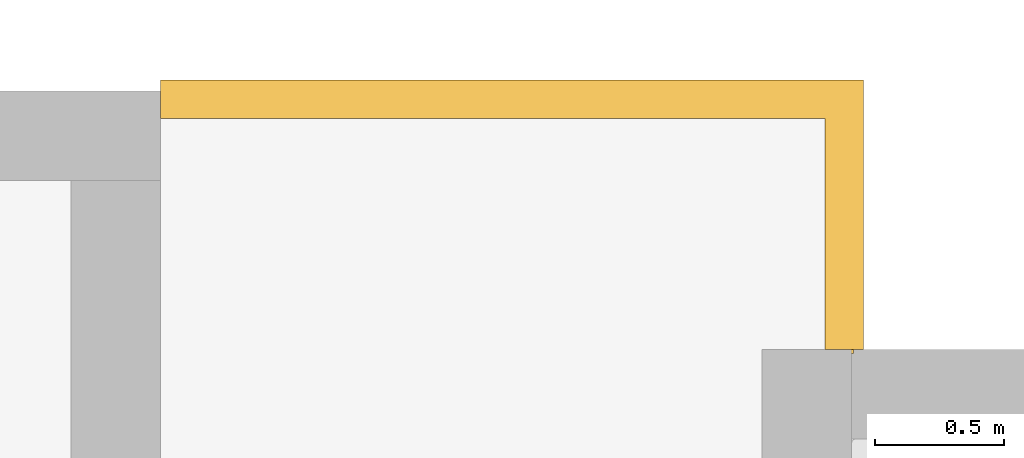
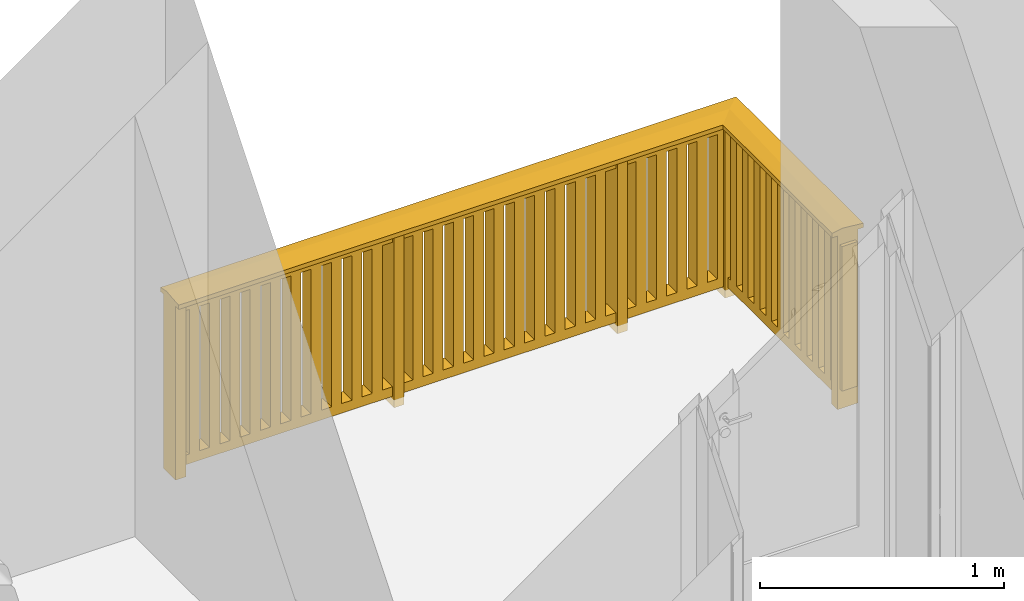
# One storey, part 33 of 44: 1 railing.
"""IFC2X3 building model written with IfcOpenShell, lengths in millimetres."""

import ifcopenshell
import ifcopenshell.guid

model = None  # the IFC model being written
_history = None  # IfcOwnerHistory: only IFC2X3 demands one
_inside = {}  # id of a spatial element -> (the spatial element, [elements in it])
_under = {}  # id of a project, library or spatial element -> (it, [spatial elements below it])
_declared = {}  # id of a project -> (the project, [libraries it declares])
_typed = {}  # id of a type object -> (the type object, [elements of that type])
_made_of = {}  # id of a material, layer set ... -> (it, [elements and type objects made of it])


def new_model(schema):
    """Start an empty IFC model of exactly this schema.

    Asked for "IFC4X3", IfcOpenShell would pick the latest addendum, in which some entities
    have other attributes; the version numbers below select the first issue.
    IFC2X3 requires an IfcOwnerHistory on every rooted entity: one is made here for all.
    """
    global model, _history
    if schema == "IFC4X3":
        model = ifcopenshell.file(schema_version=(4, 3, 0, 0))
    else:
        model = ifcopenshell.file(schema=schema)
    _inside.clear()
    _under.clear()
    _declared.clear()
    _typed.clear()
    _made_of.clear()
    _history = None
    if model.schema == "IFC2X3":
        org = make("IfcOrganization", Name="unknown")
        user = make(
            "IfcPersonAndOrganization",
            ThePerson=make("IfcPerson", FamilyName="unknown"),
            TheOrganization=org,
        )
        app = make(
            "IfcApplication",
            ApplicationDeveloper=org,
            Version="unknown",
            ApplicationFullName="unknown",
            ApplicationIdentifier="unknown",
        )
        _history = make(
            "IfcOwnerHistory",
            OwningUser=user,
            OwningApplication=app,
            ChangeAction="ADDED",
            CreationDate=0,
        )
    return model


def make(cls, **values):
    """One entity of the class cls with the attributes given. An attribute that is None is left unset."""
    return model.create_entity(
        cls, **{name: value for name, value in values.items() if value is not None}
    )


def entity(cls, *values):
    """Any entity or typed value of the class cls, its attributes in the order of the schema. None: left unset."""
    e = model.create_entity(cls)
    for i, value in enumerate(values):
        if value is not None:
            e[i] = value
    return e


def rooted(cls, **values):
    """An entity with a GlobalId (a new one), such as an element, a storey or a relation."""
    return make(cls, GlobalId=ifcopenshell.guid.new(), OwnerHistory=_history, **values)


def si_unit(unit_type, name, prefix=None):
    """IfcSIUnit, for example si_unit("LENGTHUNIT", "METRE", prefix="MILLI")."""
    return make("IfcSIUnit", UnitType=unit_type, Prefix=prefix, Name=name)


def converted_unit(unit_type, name, factor, base, dimensions=None, offset=None):
    """IfcConversionBasedUnit, such as the inch: factor (a typed value) times the base unit."""
    return make(
        "IfcConversionBasedUnit"
        if offset is None
        else "IfcConversionBasedUnitWithOffset",
        ConversionOffset=offset,
        Dimensions=None
        if dimensions is None
        else entity("IfcDimensionalExponents", *dimensions),
        UnitType=unit_type,
        Name=name,
        ConversionFactor=make(
            "IfcMeasureWithUnit", ValueComponent=factor, UnitComponent=base
        ),
    )


def assignment(units):
    """IfcUnitAssignment: the units of a project."""
    return None if units is None else make("IfcUnitAssignment", Units=units)


def point(xyz):
    """IfcCartesianPoint."""
    return None if xyz is None else make("IfcCartesianPoint", Coordinates=xyz)


def direction(xyz):
    """IfcDirection."""
    return None if xyz is None else make("IfcDirection", DirectionRatios=xyz)


def frame(location, z_axis=None, x_axis=None):
    """IfcAxis2Placement3D, a coordinate frame: its origin and axes. An axis left out is left unset."""
    return make(
        "IfcAxis2Placement3D",
        Location=point(location),
        Axis=direction(z_axis),
        RefDirection=direction(x_axis),
    )


def origin():
    """The frame at (0, 0, 0) with its axes left unset."""
    return frame((0.0, 0.0, 0.0))


def place(relative_to, where):
    """IfcLocalPlacement: puts the frame where relative to a parent placement (None: the world)."""
    return make(
        "IfcLocalPlacement", PlacementRelTo=relative_to, RelativePlacement=where
    )


def context(
    kind, dimensions, precision=None, world=None, true_north=None, identifier=None
):
    """IfcGeometricRepresentationContext, for example the 3D "Model" context."""
    return make(
        "IfcGeometricRepresentationContext",
        ContextIdentifier=identifier,
        ContextType=kind,
        CoordinateSpaceDimension=dimensions,
        Precision=precision,
        WorldCoordinateSystem=world,
        TrueNorth=true_north,
    )


def subcontext(parent, identifier, kind, view, scale=None):
    """IfcGeometricRepresentationSubContext, for example "Body" below "Model"."""
    return make(
        "IfcGeometricRepresentationSubContext",
        ContextIdentifier=identifier,
        ContextType=kind,
        ParentContext=parent,
        TargetScale=scale,
        TargetView=view,
    )


def project(units=None, contexts=None):
    """IfcProject with its units and contexts."""
    return rooted(
        "IfcProject",
        Name="project",
        RepresentationContexts=contexts,
        UnitsInContext=assignment(units),
    )


def spatial(cls, under=None, at=None, **own):
    """A site, building, storey or space (cls), placed at a placement, below another one or the project."""
    s = rooted(cls, ObjectPlacement=at, **own)
    if under is not None:
        _under.setdefault(under.id(), (under, []))[1].append(s)
    return s


def faces_of(points, faces, orient=None, outer=None):
    """IfcFace entities. A face is a list of loops; a loop is a list of indices into points, from 0.

    orient and outer hold one flag for each loop. By default every Orientation is true, the
    first loop of a face is its IfcFaceOuterBound and the others are IfcFaceBound.
    """
    made = []
    for i, loops in enumerate(faces):
        bounds = []
        for j, loop in enumerate(loops):
            is_outer = j == 0 if outer is None else outer[i][j]
            bounds.append(
                make(
                    "IfcFaceOuterBound" if is_outer else "IfcFaceBound",
                    Bound=make("IfcPolyLoop", Polygon=[points[k] for k in loop]),
                    Orientation=True if orient is None else orient[i][j],
                )
            )
        made.append(make("IfcFace", Bounds=bounds))
    return made


def faceted_brep(points, faces, orient=None, outer=None, voids=None):
    """IfcFacetedBrep: a solid bounded by flat faces; with voids (closed shells), ...WithVoids."""
    shared = [point(p) for p in points]
    hull = make("IfcClosedShell", CfsFaces=faces_of(shared, faces, orient, outer))
    if voids is None:
        return make("IfcFacetedBrep", Outer=hull)
    return make(
        "IfcFacetedBrepWithVoids",
        Outer=hull,
        Voids=[
            make(cls, CfsFaces=faces_of(shared, fs, o, b)) for cls, fs, o, b in voids
        ],
    )


def shape(context_of_items, identifier, shape_type, items):
    """IfcShapeRepresentation: the items that make up one representation, for example the "Body"."""
    return make(
        "IfcShapeRepresentation",
        ContextOfItems=context_of_items,
        RepresentationIdentifier=identifier,
        RepresentationType=shape_type,
        Items=items,
    )


def material(Name=None, Category=None):
    """IfcMaterial."""
    return make("IfcMaterial", Name=Name, Category=Category)


def made_of(thing, what):
    """Note that an element or type object is made of a material, layer set ...; save() writes the relation."""
    if what is not None:
        _made_of.setdefault(what.id(), (what, []))[1].append(thing)
    return thing


def type_object(cls, material=None, **own):
    """A type object (cls), such as IfcWallType, which elements share."""
    return made_of(rooted(cls, **own), material)


def element(
    cls,
    number,
    at=None,
    inside=None,
    cuts=None,
    type_object=None,
    material=None,
    context=None,
    identifier="Body",
    shape_type=None,
    held_by="IfcProductDefinitionShape",
    body=None,
    shapes=None,
    **own,
):
    """One element of the class cls, such as IfcWall. Its Tag is "e" and its number.

    at: its placement. inside: the storey or other place that contains it. cuts: it is an
    opening in that element (IfcRelVoidsElement). A single representation is given by context,
    identifier, shape_type and body (its items); several are given by shapes. held_by: the class
    of the entity that holds the representations. save() writes the other relations.
    """
    e = rooted(cls, Tag="e%d" % number, ObjectPlacement=at, **own)
    if body is not None:
        shapes = [shape(context, identifier, shape_type, body)]
    if shapes is not None:
        e.Representation = make(held_by, Representations=shapes)
    if inside is not None:
        _inside.setdefault(inside.id(), (inside, []))[1].append(e)
    if cuts is not None:
        rooted(
            "IfcRelVoidsElement", RelatingBuildingElement=cuts, RelatedOpeningElement=e
        )
    if type_object is not None:
        _typed.setdefault(type_object.id(), (type_object, []))[1].append(e)
    return made_of(e, material)


def aggregate(whole, parts):
    """IfcRelAggregates: a whole, such as a stair, and the parts it consists of."""
    return rooted("IfcRelAggregates", RelatingObject=whole, RelatedObjects=parts)


def save(model, path):
    """Write the relations noted so far, then the file.

    IfcRelAggregates (storeys below a building ...), IfcRelContainedInSpatialStructure (elements
    in a storey), IfcRelDefinesByType, IfcRelAssociatesMaterial and IfcRelDeclares: one each for
    every whole, place, type object, material and project.
    """
    for whole, parts in _under.values():
        aggregate(whole, parts)
    for where, things in _inside.values():
        rooted(
            "IfcRelContainedInSpatialStructure",
            RelatedElements=things,
            RelatingStructure=where,
        )
    for kind, things in _typed.values():
        rooted("IfcRelDefinesByType", RelatedObjects=things, RelatingType=kind)
    for what, things in _made_of.values():
        rooted("IfcRelAssociatesMaterial", RelatedObjects=things, RelatingMaterial=what)
    for by, libraries in _declared.values():
        rooted("IfcRelDeclares", RelatingContext=by, RelatedDefinitions=libraries)
    model.write(path)


model = new_model("IFC2X3")

# Units and contexts
model_context = context("Model", 3, precision=0.01, world=origin(), true_north=direction((0.0, 1.0)))
body_context = subcontext(model_context, "Body", "Model", "MODEL_VIEW")
ifc_project = project(units=[si_unit("LENGTHUNIT", "METRE", prefix="MILLI"), si_unit("AREAUNIT", "SQUARE_METRE"), si_unit("VOLUMEUNIT", "CUBIC_METRE"), converted_unit("PLANEANGLEUNIT", "DEGREE", entity("IfcPlaneAngleMeasure", 0.017453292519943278), si_unit("PLANEANGLEUNIT", "RADIAN"), dimensions=[0, 0, 0, 0, 0, 0, 0])], contexts=[model_context])

# Site, building, storey
site_placement = place(None, origin())
site = spatial("IfcSite", under=ifc_project, at=site_placement, Name="Default", CompositionType="ELEMENT")
building_placement = place(site_placement, origin())
building = spatial("IfcBuilding", under=site, at=building_placement, CompositionType="ELEMENT")
storey_placement = place(building_placement, frame((0.0, 0.0, 2681.0)))
storey = spatial("IfcBuildingStorey", under=building, at=storey_placement, Name="Et. 2", CompositionType="ELEMENT", Elevation=2681.0)

# Railing
ifc_material = material(Name="Rekkverk - Tre")
railing_type = type_object("IfcRailingType", Name="Railing:Balkong - Spiler Stående 900mm", PredefinedType="NOTDEFINED")
railing_placement = place(storey_placement, frame((19678.009586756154, 17066.180957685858, 0.0)))
element("IfcRailing", 1, at=railing_placement, inside=storey, type_object=railing_type, material=ifc_material, Name="Railing:Balkong - Spiler Stående 900mm", PredefinedType="NOTDEFINED", context=body_context, shape_type="Brep", body=[
    faceted_brep([(2682.50000000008, 48.0, 820.0), (2682.50000000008, 48.0, 98.0), (2609.5000000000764, 48.0, 98.0), (2609.5000000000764, 48.0, 820.0), (2609.5000000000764, 0.0, 98.0), (2609.5000000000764, 0.0, 820.0), (2682.50000000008, 0.0, 98.0), (2682.50000000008, 0.0, 820.0)], [[[0, 1, 2, 3]], [[3, 2, 4, 5]], [[5, 4, 6, 7]], [[1, 0, 7, 6]], [[0, 3, 5, 7]], [[2, 1, 6, 4]]]),
    faceted_brep([(2682.50000000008, 144.0, 820.0), (2682.50000000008, 144.0, 98.0), (2609.5000000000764, 144.0, 98.0), (2609.5000000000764, 144.0, 820.0), (2609.5000000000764, 96.0, 98.0), (2609.5000000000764, 96.0, 820.0), (2682.50000000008, 96.0, 98.0), (2682.50000000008, 96.0, 820.0)], [[[0, 1, 2, 3]], [[3, 2, 4, 5]], [[5, 4, 6, 7]], [[1, 0, 7, 6]], [[0, 3, 5, 7]], [[2, 1, 6, 4]]]),
    faceted_brep([(2682.50000000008, 240.0, 820.0), (2682.50000000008, 240.0, 98.0), (2609.5000000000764, 240.0, 98.0), (2609.5000000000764, 240.0, 820.0), (2609.5000000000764, 192.0, 98.0), (2609.5000000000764, 192.0, 820.0), (2682.50000000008, 192.0, 98.0), (2682.50000000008, 192.0, 820.0)], [[[0, 1, 2, 3]], [[3, 2, 4, 5]], [[5, 4, 6, 7]], [[1, 0, 7, 6]], [[0, 3, 5, 7]], [[2, 1, 6, 4]]]),
    faceted_brep([(2682.50000000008, 336.0, 820.0), (2682.50000000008, 336.0, 98.0), (2609.5000000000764, 336.0, 98.0), (2609.5000000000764, 336.0, 820.0), (2609.5000000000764, 288.0, 98.0), (2609.5000000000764, 288.0, 820.0), (2682.50000000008, 288.0, 98.0), (2682.50000000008, 288.0, 820.0)], [[[0, 1, 2, 3]], [[3, 2, 4, 5]], [[5, 4, 6, 7]], [[1, 0, 7, 6]], [[0, 3, 5, 7]], [[2, 1, 6, 4]]]),
    faceted_brep([(2682.50000000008, 432.0, 820.0), (2682.50000000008, 432.0, 98.0), (2609.5000000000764, 432.0, 98.0), (2609.5000000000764, 432.0, 820.0), (2609.5000000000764, 384.0, 98.0), (2609.5000000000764, 384.0, 820.0), (2682.50000000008, 384.0, 98.0), (2682.50000000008, 384.0, 820.0)], [[[0, 1, 2, 3]], [[3, 2, 4, 5]], [[5, 4, 6, 7]], [[1, 0, 7, 6]], [[0, 3, 5, 7]], [[2, 1, 6, 4]]]),
    faceted_brep([(2682.50000000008, 528.0, 820.0), (2682.50000000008, 528.0, 98.0), (2609.5000000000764, 528.0, 98.0), (2609.5000000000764, 528.0, 820.0), (2609.5000000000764, 480.0, 98.0), (2609.5000000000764, 480.0, 820.0), (2682.50000000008, 480.0, 98.0), (2682.50000000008, 480.0, 820.0)], [[[0, 1, 2, 3]], [[3, 2, 4, 5]], [[5, 4, 6, 7]], [[1, 0, 7, 6]], [[0, 3, 5, 7]], [[2, 1, 6, 4]]]),
    faceted_brep([(2682.50000000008, 624.0, 820.0), (2682.50000000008, 624.0, 98.0), (2609.5000000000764, 624.0, 98.0), (2609.5000000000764, 624.0, 820.0), (2609.5000000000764, 576.0, 98.0), (2609.5000000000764, 576.0, 820.0), (2682.50000000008, 576.0, 98.0), (2682.50000000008, 576.0, 820.0)], [[[0, 1, 2, 3]], [[3, 2, 4, 5]], [[5, 4, 6, 7]], [[1, 0, 7, 6]], [[0, 3, 5, 7]], [[2, 1, 6, 4]]]),
    faceted_brep([(2682.50000000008, 720.0, 820.0), (2682.50000000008, 720.0, 98.0), (2609.5000000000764, 720.0, 98.0), (2609.5000000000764, 720.0, 820.0), (2609.5000000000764, 672.0, 98.0), (2609.5000000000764, 672.0, 820.0), (2682.50000000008, 672.0, 98.0), (2682.50000000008, 672.0, 820.0)], [[[0, 1, 2, 3]], [[3, 2, 4, 5]], [[5, 4, 6, 7]], [[1, 0, 7, 6]], [[0, 3, 5, 7]], [[2, 1, 6, 4]]]),
    faceted_brep([(2682.50000000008, 816.0, 820.0), (2682.50000000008, 816.0, 98.0), (2609.5000000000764, 816.0, 98.0), (2609.5000000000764, 816.0, 820.0), (2609.5000000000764, 768.0, 98.0), (2609.5000000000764, 768.0, 820.0), (2682.50000000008, 768.0, 98.0), (2682.50000000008, 768.0, 820.0)], [[[0, 1, 2, 3]], [[3, 2, 4, 5]], [[5, 4, 6, 7]], [[1, 0, 7, 6]], [[0, 3, 5, 7]], [[2, 1, 6, 4]]]),
    faceted_brep([(2682.50000000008, 912.0, 820.0), (2682.50000000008, 912.0, 98.0), (2609.5000000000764, 912.0, 98.0), (2609.5000000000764, 912.0, 820.0), (2609.5000000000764, 864.0, 98.0), (2609.5000000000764, 864.0, 820.0), (2682.50000000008, 864.0, 98.0), (2682.50000000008, 864.0, 820.0)], [[[0, 1, 2, 3]], [[3, 2, 4, 5]], [[5, 4, 6, 7]], [[1, 0, 7, 6]], [[0, 3, 5, 7]], [[2, 1, 6, 4]]]),
    faceted_brep([(2568.0, 1020.5000000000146, 820.0), (2568.0, 1020.5000000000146, 98.0), (2568.0, 947.5000000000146, 98.0), (2568.0, 947.5000000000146, 820.0), (2616.0, 947.5000000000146, 98.0), (2616.0, 947.5000000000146, 820.0), (2616.0, 1020.5000000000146, 98.0), (2616.0, 1020.5000000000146, 820.0)], [[[0, 1, 2, 3]], [[3, 2, 4, 5]], [[5, 4, 6, 7]], [[1, 0, 7, 6]], [[0, 3, 5, 7]], [[2, 1, 6, 4]]]),
    faceted_brep([(2472.0, 1020.5000000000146, 820.0), (2472.0, 1020.5000000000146, 98.0), (2472.0, 947.5000000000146, 98.0), (2472.0, 947.5000000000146, 820.0), (2520.0, 947.5000000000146, 98.0), (2520.0, 947.5000000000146, 820.0), (2520.0, 1020.5000000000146, 98.0), (2520.0, 1020.5000000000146, 820.0)], [[[0, 1, 2, 3]], [[3, 2, 4, 5]], [[5, 4, 6, 7]], [[1, 0, 7, 6]], [[0, 3, 5, 7]], [[2, 1, 6, 4]]]),
    faceted_brep([(2376.0, 1020.5000000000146, 820.0), (2376.0, 1020.5000000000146, 98.0), (2376.0, 947.5000000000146, 98.0), (2376.0, 947.5000000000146, 820.0), (2424.0, 947.5000000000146, 98.0), (2424.0, 947.5000000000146, 820.0), (2424.0, 1020.5000000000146, 98.0), (2424.0, 1020.5000000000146, 820.0)], [[[0, 1, 2, 3]], [[3, 2, 4, 5]], [[5, 4, 6, 7]], [[1, 0, 7, 6]], [[0, 3, 5, 7]], [[2, 1, 6, 4]]]),
    faceted_brep([(2280.0, 1020.5000000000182, 820.0), (2280.0, 1020.5000000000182, 98.0), (2280.0, 947.5000000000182, 98.0), (2280.0, 947.5000000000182, 820.0), (2328.0, 947.5000000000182, 98.0), (2328.0, 947.5000000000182, 820.0), (2328.0, 1020.5000000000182, 98.0), (2328.0, 1020.5000000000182, 820.0)], [[[0, 1, 2, 3]], [[3, 2, 4, 5]], [[5, 4, 6, 7]], [[1, 0, 7, 6]], [[0, 3, 5, 7]], [[2, 1, 6, 4]]]),
    faceted_brep([(2184.0, 1020.5000000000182, 820.0), (2184.0, 1020.5000000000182, 98.0), (2184.0, 947.5000000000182, 98.0), (2184.0, 947.5000000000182, 820.0), (2232.0, 947.5000000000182, 98.0), (2232.0, 947.5000000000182, 820.0), (2232.0, 1020.5000000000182, 98.0), (2232.0, 1020.5000000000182, 820.0)], [[[0, 1, 2, 3]], [[3, 2, 4, 5]], [[5, 4, 6, 7]], [[1, 0, 7, 6]], [[0, 3, 5, 7]], [[2, 1, 6, 4]]]),
    faceted_brep([(2088.0, 1033.0, 868.0), (2088.0, 1033.0, 0.0), (2088.0, 935.0, 0.0), (2088.0, 935.0, 868.0), (2136.0, 935.0, 0.0), (2136.0, 935.0, 868.0), (2136.0, 1033.0, 0.0), (2136.0, 1033.0, 868.0)], [[[0, 1, 2, 3]], [[3, 2, 4, 5]], [[5, 4, 6, 7]], [[1, 0, 7, 6]], [[0, 3, 5, 7]], [[2, 1, 6, 4]]]),
    faceted_brep([(1992.0, 1020.5000000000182, 820.0), (1992.0, 1020.5000000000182, 98.0), (1992.0, 947.5000000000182, 98.0), (1992.0, 947.5000000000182, 820.0), (2040.0, 947.5000000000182, 98.0), (2040.0, 947.5000000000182, 820.0), (2040.0, 1020.5000000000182, 98.0), (2040.0, 1020.5000000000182, 820.0)], [[[0, 1, 2, 3]], [[3, 2, 4, 5]], [[5, 4, 6, 7]], [[1, 0, 7, 6]], [[0, 3, 5, 7]], [[2, 1, 6, 4]]]),
    faceted_brep([(1896.0, 1020.5000000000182, 820.0), (1896.0, 1020.5000000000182, 98.0), (1896.0, 947.5000000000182, 98.0), (1896.0, 947.5000000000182, 820.0), (1944.0, 947.5000000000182, 98.0), (1944.0, 947.5000000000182, 820.0), (1944.0, 1020.5000000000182, 98.0), (1944.0, 1020.5000000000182, 820.0)], [[[0, 1, 2, 3]], [[3, 2, 4, 5]], [[5, 4, 6, 7]], [[1, 0, 7, 6]], [[0, 3, 5, 7]], [[2, 1, 6, 4]]]),
    faceted_brep([(1800.0, 1020.5000000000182, 820.0), (1800.0, 1020.5000000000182, 98.0), (1800.0, 947.5000000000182, 98.0), (1800.0, 947.5000000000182, 820.0), (1848.0, 947.5000000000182, 98.0), (1848.0, 947.5000000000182, 820.0), (1848.0, 1020.5000000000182, 98.0), (1848.0, 1020.5000000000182, 820.0)], [[[0, 1, 2, 3]], [[3, 2, 4, 5]], [[5, 4, 6, 7]], [[1, 0, 7, 6]], [[0, 3, 5, 7]], [[2, 1, 6, 4]]]),
    faceted_brep([(1704.0, 1020.5000000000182, 820.0), (1704.0, 1020.5000000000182, 98.0), (1704.0, 947.5000000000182, 98.0), (1704.0, 947.5000000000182, 820.0), (1752.0, 947.5000000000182, 98.0), (1752.0, 947.5000000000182, 820.0), (1752.0, 1020.5000000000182, 98.0), (1752.0, 1020.5000000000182, 820.0)], [[[0, 1, 2, 3]], [[3, 2, 4, 5]], [[5, 4, 6, 7]], [[1, 0, 7, 6]], [[0, 3, 5, 7]], [[2, 1, 6, 4]]]),
    faceted_brep([(1608.0, 1020.5000000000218, 820.0), (1608.0, 1020.5000000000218, 98.0), (1608.0, 947.5000000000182, 98.0), (1608.0, 947.5000000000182, 820.0), (1656.0, 947.5000000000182, 98.0), (1656.0, 947.5000000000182, 820.0), (1656.0, 1020.5000000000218, 98.0), (1656.0, 1020.5000000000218, 820.0)], [[[0, 1, 2, 3]], [[3, 2, 4, 5]], [[5, 4, 6, 7]], [[1, 0, 7, 6]], [[0, 3, 5, 7]], [[2, 1, 6, 4]]]),
    faceted_brep([(1512.0, 1020.5000000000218, 820.0), (1512.0, 1020.5000000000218, 98.0), (1512.0, 947.5000000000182, 98.0), (1512.0, 947.5000000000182, 820.0), (1560.0, 947.5000000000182, 98.0), (1560.0, 947.5000000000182, 820.0), (1560.0, 1020.5000000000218, 98.0), (1560.0, 1020.5000000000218, 820.0)], [[[0, 1, 2, 3]], [[3, 2, 4, 5]], [[5, 4, 6, 7]], [[1, 0, 7, 6]], [[0, 3, 5, 7]], [[2, 1, 6, 4]]]),
    faceted_brep([(1416.0, 1020.5000000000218, 820.0), (1416.0, 1020.5000000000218, 98.0), (1416.0, 947.5000000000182, 98.0), (1416.0, 947.5000000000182, 820.0), (1464.0, 947.5000000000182, 98.0), (1464.0, 947.5000000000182, 820.0), (1464.0, 1020.5000000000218, 98.0), (1464.0, 1020.5000000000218, 820.0)], [[[0, 1, 2, 3]], [[3, 2, 4, 5]], [[5, 4, 6, 7]], [[1, 0, 7, 6]], [[0, 3, 5, 7]], [[2, 1, 6, 4]]]),
    faceted_brep([(1320.0, 1020.5000000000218, 820.0), (1320.0, 1020.5000000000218, 98.0), (1320.0, 947.5000000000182, 98.0), (1320.0, 947.5000000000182, 820.0), (1368.0, 947.5000000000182, 98.0), (1368.0, 947.5000000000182, 820.0), (1368.0, 1020.5000000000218, 98.0), (1368.0, 1020.5000000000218, 820.0)], [[[0, 1, 2, 3]], [[3, 2, 4, 5]], [[5, 4, 6, 7]], [[1, 0, 7, 6]], [[0, 3, 5, 7]], [[2, 1, 6, 4]]]),
    faceted_brep([(1224.0, 1020.5000000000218, 820.0), (1224.0, 1020.5000000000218, 98.0), (1224.0, 947.5000000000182, 98.0), (1224.0, 947.5000000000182, 820.0), (1272.0, 947.5000000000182, 98.0), (1272.0, 947.5000000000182, 820.0), (1272.0, 1020.5000000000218, 98.0), (1272.0, 1020.5000000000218, 820.0)], [[[0, 1, 2, 3]], [[3, 2, 4, 5]], [[5, 4, 6, 7]], [[1, 0, 7, 6]], [[0, 3, 5, 7]], [[2, 1, 6, 4]]]),
    faceted_brep([(1128.0, 1020.5000000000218, 820.0), (1128.0, 1020.5000000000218, 98.0), (1128.0, 947.5000000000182, 98.0), (1128.0, 947.5000000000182, 820.0), (1176.0, 947.5000000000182, 98.0), (1176.0, 947.5000000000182, 820.0), (1176.0, 1020.5000000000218, 98.0), (1176.0, 1020.5000000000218, 820.0)], [[[0, 1, 2, 3]], [[3, 2, 4, 5]], [[5, 4, 6, 7]], [[1, 0, 7, 6]], [[0, 3, 5, 7]], [[2, 1, 6, 4]]]),
    faceted_brep([(1032.0, 1033.0, 868.0), (1032.0, 1033.0, 0.0), (1032.0, 935.0, 0.0), (1032.0, 935.0, 868.0), (1080.0, 935.0, 0.0), (1080.0, 935.0, 868.0), (1080.0, 1033.0, 0.0), (1080.0, 1033.0, 868.0)], [[[0, 1, 2, 3]], [[3, 2, 4, 5]], [[5, 4, 6, 7]], [[1, 0, 7, 6]], [[0, 3, 5, 7]], [[2, 1, 6, 4]]]),
    faceted_brep([(936.0, 1020.5000000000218, 820.0), (936.0, 1020.5000000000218, 98.0), (936.0, 947.5000000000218, 98.0), (936.0, 947.5000000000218, 820.0), (984.0, 947.5000000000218, 98.0), (984.0, 947.5000000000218, 820.0), (984.0, 1020.5000000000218, 98.0), (984.0, 1020.5000000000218, 820.0)], [[[0, 1, 2, 3]], [[3, 2, 4, 5]], [[5, 4, 6, 7]], [[1, 0, 7, 6]], [[0, 3, 5, 7]], [[2, 1, 6, 4]]]),
    faceted_brep([(840.0, 1020.5000000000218, 820.0), (840.0, 1020.5000000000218, 98.0), (840.0, 947.5000000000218, 98.0), (840.0, 947.5000000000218, 820.0), (888.0, 947.5000000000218, 98.0), (888.0, 947.5000000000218, 820.0), (888.0, 1020.5000000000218, 98.0), (888.0, 1020.5000000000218, 820.0)], [[[0, 1, 2, 3]], [[3, 2, 4, 5]], [[5, 4, 6, 7]], [[1, 0, 7, 6]], [[0, 3, 5, 7]], [[2, 1, 6, 4]]]),
    faceted_brep([(744.0, 1020.5000000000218, 820.0), (744.0, 1020.5000000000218, 98.0), (744.0, 947.5000000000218, 98.0), (744.0, 947.5000000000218, 820.0), (792.0, 947.5000000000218, 98.0), (792.0, 947.5000000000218, 820.0), (792.0, 1020.5000000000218, 98.0), (792.0, 1020.5000000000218, 820.0)], [[[0, 1, 2, 3]], [[3, 2, 4, 5]], [[5, 4, 6, 7]], [[1, 0, 7, 6]], [[0, 3, 5, 7]], [[2, 1, 6, 4]]]),
    faceted_brep([(648.0, 1020.5000000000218, 820.0), (648.0, 1020.5000000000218, 98.0), (648.0, 947.5000000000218, 98.0), (648.0, 947.5000000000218, 820.0), (696.0, 947.5000000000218, 98.0), (696.0, 947.5000000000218, 820.0), (696.0, 1020.5000000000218, 98.0), (696.0, 1020.5000000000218, 820.0)], [[[0, 1, 2, 3]], [[3, 2, 4, 5]], [[5, 4, 6, 7]], [[1, 0, 7, 6]], [[0, 3, 5, 7]], [[2, 1, 6, 4]]]),
    faceted_brep([(552.0, 1020.5000000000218, 820.0), (552.0, 1020.5000000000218, 98.0), (552.0, 947.5000000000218, 98.0), (552.0, 947.5000000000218, 820.0), (600.0, 947.5000000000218, 98.0), (600.0, 947.5000000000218, 820.0), (600.0, 1020.5000000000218, 98.0), (600.0, 1020.5000000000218, 820.0)], [[[0, 1, 2, 3]], [[3, 2, 4, 5]], [[5, 4, 6, 7]], [[1, 0, 7, 6]], [[0, 3, 5, 7]], [[2, 1, 6, 4]]]),
    faceted_brep([(456.0, 1020.5000000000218, 820.0), (456.0, 1020.5000000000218, 98.0), (456.0, 947.5000000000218, 98.0), (456.0, 947.5000000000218, 820.0), (504.0, 947.5000000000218, 98.0), (504.0, 947.5000000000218, 820.0), (504.0, 1020.5000000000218, 98.0), (504.0, 1020.5000000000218, 820.0)], [[[0, 1, 2, 3]], [[3, 2, 4, 5]], [[5, 4, 6, 7]], [[1, 0, 7, 6]], [[0, 3, 5, 7]], [[2, 1, 6, 4]]]),
    faceted_brep([(360.0, 1020.5000000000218, 820.0), (360.0, 1020.5000000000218, 98.0), (360.0, 947.5000000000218, 98.0), (360.0, 947.5000000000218, 820.0), (408.0, 947.5000000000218, 98.0), (408.0, 947.5000000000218, 820.0), (408.0, 1020.5000000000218, 98.0), (408.0, 1020.5000000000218, 820.0)], [[[0, 1, 2, 3]], [[3, 2, 4, 5]], [[5, 4, 6, 7]], [[1, 0, 7, 6]], [[0, 3, 5, 7]], [[2, 1, 6, 4]]]),
    faceted_brep([(264.0, 1020.5000000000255, 820.0), (264.0, 1020.5000000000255, 98.0), (264.0, 947.5000000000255, 98.0), (264.0, 947.5000000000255, 820.0), (312.0, 947.5000000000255, 98.0), (312.0, 947.5000000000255, 820.0), (312.0, 1020.5000000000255, 98.0), (312.0, 1020.5000000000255, 820.0)], [[[0, 1, 2, 3]], [[3, 2, 4, 5]], [[5, 4, 6, 7]], [[1, 0, 7, 6]], [[0, 3, 5, 7]], [[2, 1, 6, 4]]]),
    faceted_brep([(168.0, 1020.5000000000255, 820.0), (168.0, 1020.5000000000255, 98.0), (168.0, 947.5000000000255, 98.0), (168.0, 947.5000000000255, 820.0), (216.0, 947.5000000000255, 98.0), (216.0, 947.5000000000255, 820.0), (216.0, 1020.5000000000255, 98.0), (216.0, 1020.5000000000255, 820.0)], [[[0, 1, 2, 3]], [[3, 2, 4, 5]], [[5, 4, 6, 7]], [[1, 0, 7, 6]], [[0, 3, 5, 7]], [[2, 1, 6, 4]]]),
    faceted_brep([(72.0, 1020.5000000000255, 820.0), (72.0, 1020.5000000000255, 98.0), (72.0, 947.5000000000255, 98.0), (72.0, 947.5000000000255, 820.0), (120.0, 947.5000000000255, 98.0), (120.0, 947.5000000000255, 820.0), (120.0, 1020.5000000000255, 98.0), (120.0, 1020.5000000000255, 820.0)], [[[0, 1, 2, 3]], [[3, 2, 4, 5]], [[5, 4, 6, 7]], [[1, 0, 7, 6]], [[0, 3, 5, 7]], [[2, 1, 6, 4]]]),
    faceted_brep([(2597.0, 1033.0, 868.0), (2597.0, 1033.0, 0.0), (2597.0, 935.0, 0.0), (2597.0, 935.0, 868.0), (2695.0, 935.0, 0.0), (2695.0, 935.0, 868.0), (2695.0, 1033.0, 0.0), (2695.0, 1033.0, 868.0)], [[[0, 1, 2, 3]], [[3, 2, 4, 5]], [[5, 4, 6, 7]], [[1, 0, 7, 6]], [[0, 3, 5, 7]], [[2, 1, 6, 4]]]),
    faceted_brep([(2695.0, 64.0, 868.0), (2695.0, 64.0, 0.0), (2597.0, 64.0, 0.0), (2597.0, 64.0, 868.0), (2597.0, 16.0, 0.0), (2597.0, 16.0, 868.0), (2695.0, 16.0, 0.0), (2695.0, 16.0, 868.0)], [[[0, 1, 2, 3]], [[3, 2, 4, 5]], [[5, 4, 6, 7]], [[1, 0, 7, 6]], [[0, 3, 5, 7]], [[2, 1, 6, 4]]]),
    faceted_brep([(0.0, 1033.0, 868.0), (0.0, 1033.0, 0.0), (0.0, 935.0, 0.0), (0.0, 935.0, 868.0), (48.0, 935.0, 0.0), (48.0, 935.0, 868.0), (48.0, 1033.0, 0.0), (48.0, 1033.0, 868.0)], [[[0, 1, 2, 3]], [[3, 2, 4, 5]], [[5, 4, 6, 7]], [[1, 0, 7, 6]], [[0, 3, 5, 7]], [[2, 1, 6, 4]]]),
    faceted_brep([(0.0, 947.5000000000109, 868.0), (0.0, 1020.5000000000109, 868.0), (0.0, 1020.5000000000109, 820.0), (0.0, 947.5000000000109, 820.0), (2609.5000000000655, 947.5000000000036, 868.0), (2682.5000000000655, 1020.5000000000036, 868.0), (2682.5000000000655, 1020.5000000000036, 820.0), (2609.5000000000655, 947.5000000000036, 820.0), (2609.5000000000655, 16.0, 868.0), (2609.5000000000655, 16.0, 820.0), (2682.5000000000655, 16.0, 820.0), (2682.5000000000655, 16.0, 868.0)], [[[0, 1, 2, 3]], [[1, 0, 4, 5]], [[2, 1, 5, 6]], [[3, 2, 6, 7]], [[0, 3, 7, 4]], [[8, 9, 10, 11]], [[5, 4, 8, 11]], [[6, 5, 11, 10]], [[7, 6, 10, 9]], [[4, 7, 9, 8]]]),
    faceted_brep([(0.0, 947.5000000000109, 98.0), (0.0, 1020.5000000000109, 98.0), (0.0, 1020.5000000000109, 50.0), (0.0, 947.5000000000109, 50.0), (2609.5000000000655, 947.5000000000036, 98.0), (2682.5000000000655, 1020.5000000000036, 98.0), (2682.5000000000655, 1020.5000000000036, 50.0), (2609.5000000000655, 947.5000000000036, 50.0), (2609.5000000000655, 16.0, 98.0), (2609.5000000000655, 16.0, 50.0), (2682.5000000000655, 16.0, 50.0), (2682.5000000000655, 16.0, 98.0)], [[[0, 1, 2, 3]], [[1, 0, 4, 5]], [[2, 1, 5, 6]], [[3, 2, 6, 7]], [[0, 3, 7, 4]], [[8, 9, 10, 11]], [[5, 4, 8, 11]], [[6, 5, 11, 10]], [[7, 6, 10, 9]], [[4, 7, 9, 8]]]),
    faceted_brep([(0.0, 910.0, 868.0), (0.0, 910.0, 889.3333333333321), (0.0, 959.4844944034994, 894.0704619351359), (0.0, 1008.9689888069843, 898.8075905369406), (0.0, 1058.0, 889.3333333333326), (0.0, 1058.0, 868.0), (2720.0, 1058.0, 868.0), (2720.0, 16.0, 868.0), (2572.0, 16.0, 868.0), (2572.0, 910.0, 868.0), (2572.0, 910.0, 889.3333333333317), (2646.0, 984.0, 900.0), (2720.0, 1058.0, 889.3333333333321), (2621.031011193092, 16.0, 898.8075905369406), (2572.0, 16.0, 889.3333333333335), (2720.0, 16.0, 889.3333333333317), (2670.515505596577, 16.0, 894.0704619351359)], [[[0, 1, 2, 3, 4, 5]], [[0, 5, 6, 7, 8, 9]], [[1, 0, 9, 10]], [[11, 2, 10]], [[2, 1, 10]], [[3, 12, 4]], [[12, 3, 11]], [[11, 3, 2]], [[5, 4, 12, 6]], [[13, 14, 8, 7, 15, 16]], [[10, 9, 8, 14]], [[10, 14, 13]], [[10, 13, 11]], [[12, 11, 16]], [[16, 15, 12]], [[11, 13, 16]], [[6, 12, 15, 7]]]),
])

save(model, "model.ifc")
